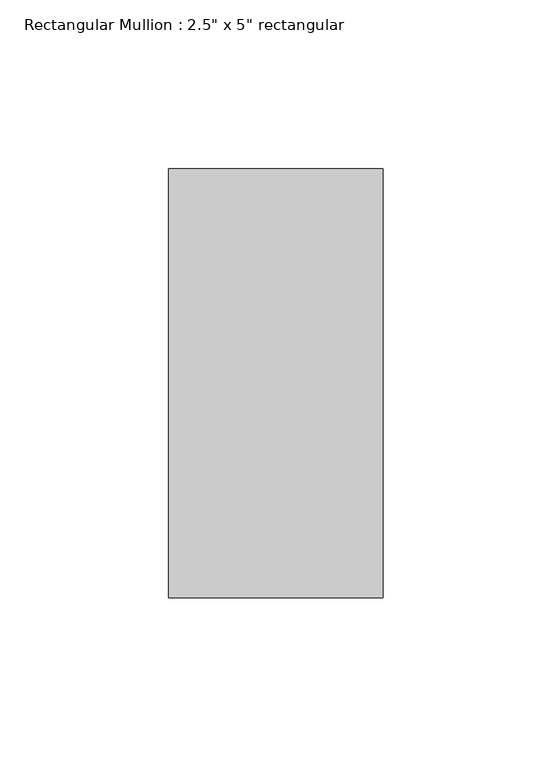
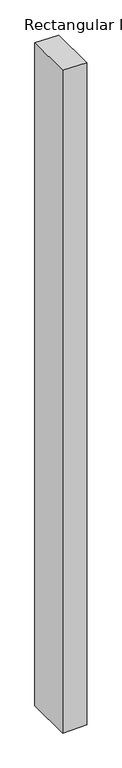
"""IFC4 building model written with IfcOpenShell, lengths in millimetres: member geometry."""

import ifcopenshell
import ifcopenshell.guid

model = None  # the IFC model being written
_history = None  # IfcOwnerHistory: only IFC2X3 demands one
_inside = {}  # id of a spatial element -> (the spatial element, [elements in it])
_under = {}  # id of a project, library or spatial element -> (it, [spatial elements below it])
_declared = {}  # id of a project -> (the project, [libraries it declares])
_typed = {}  # id of a type object -> (the type object, [elements of that type])
_made_of = {}  # id of a material, layer set ... -> (it, [elements and type objects made of it])


def new_model(schema):
    """Start an empty IFC model of exactly this schema.

    Asked for "IFC4X3", IfcOpenShell would pick the latest addendum, in which some entities
    have other attributes; the version numbers below select the first issue.
    IFC2X3 requires an IfcOwnerHistory on every rooted entity: one is made here for all.
    """
    global model, _history
    if schema == "IFC4X3":
        model = ifcopenshell.file(schema_version=(4, 3, 0, 0))
    else:
        model = ifcopenshell.file(schema=schema)
    _inside.clear()
    _under.clear()
    _declared.clear()
    _typed.clear()
    _made_of.clear()
    _history = None
    if model.schema == "IFC2X3":
        org = make("IfcOrganization", Name="unknown")
        user = make(
            "IfcPersonAndOrganization",
            ThePerson=make("IfcPerson", FamilyName="unknown"),
            TheOrganization=org,
        )
        app = make(
            "IfcApplication",
            ApplicationDeveloper=org,
            Version="unknown",
            ApplicationFullName="unknown",
            ApplicationIdentifier="unknown",
        )
        _history = make(
            "IfcOwnerHistory",
            OwningUser=user,
            OwningApplication=app,
            ChangeAction="ADDED",
            CreationDate=0,
        )
    return model


def make(cls, **values):
    """One entity of the class cls with the attributes given. An attribute that is None is left unset."""
    return model.create_entity(
        cls, **{name: value for name, value in values.items() if value is not None}
    )


def rooted(cls, **values):
    """An entity with a GlobalId (a new one), such as an element, a storey or a relation."""
    return make(cls, GlobalId=ifcopenshell.guid.new(), OwnerHistory=_history, **values)


def si_unit(unit_type, name, prefix=None):
    """IfcSIUnit, for example si_unit("LENGTHUNIT", "METRE", prefix="MILLI")."""
    return make("IfcSIUnit", UnitType=unit_type, Prefix=prefix, Name=name)


def assignment(units):
    """IfcUnitAssignment: the units of a project."""
    return None if units is None else make("IfcUnitAssignment", Units=units)


def point(xyz):
    """IfcCartesianPoint."""
    return None if xyz is None else make("IfcCartesianPoint", Coordinates=xyz)


def direction(xyz):
    """IfcDirection."""
    return None if xyz is None else make("IfcDirection", DirectionRatios=xyz)


def frame(location, z_axis=None, x_axis=None):
    """IfcAxis2Placement3D, a coordinate frame: its origin and axes. An axis left out is left unset."""
    return make(
        "IfcAxis2Placement3D",
        Location=point(location),
        Axis=direction(z_axis),
        RefDirection=direction(x_axis),
    )


def origin():
    """The frame at (0, 0, 0) with its axes left unset."""
    return frame((0.0, 0.0, 0.0))


def place(relative_to, where):
    """IfcLocalPlacement: puts the frame where relative to a parent placement (None: the world)."""
    return make(
        "IfcLocalPlacement", PlacementRelTo=relative_to, RelativePlacement=where
    )


def context(
    kind, dimensions, precision=None, world=None, true_north=None, identifier=None
):
    """IfcGeometricRepresentationContext, for example the 3D "Model" context."""
    return make(
        "IfcGeometricRepresentationContext",
        ContextIdentifier=identifier,
        ContextType=kind,
        CoordinateSpaceDimension=dimensions,
        Precision=precision,
        WorldCoordinateSystem=world,
        TrueNorth=true_north,
    )


def project(units=None, contexts=None):
    """IfcProject with its units and contexts."""
    return rooted(
        "IfcProject",
        Name="project",
        RepresentationContexts=contexts,
        UnitsInContext=assignment(units),
    )


def spatial(cls, under=None, at=None, **own):
    """A site, building, storey or space (cls), placed at a placement, below another one or the project."""
    s = rooted(cls, ObjectPlacement=at, **own)
    if under is not None:
        _under.setdefault(under.id(), (under, []))[1].append(s)
    return s


def polyline(points):
    """IfcPolyline through the points."""
    return make("IfcPolyline", Points=[point(p) for p in points])


def outline(outer, holes=None, kind="AREA"):
    """IfcArbitraryClosedProfileDef: a profile drawn as a closed curve; with holes, ...WithVoids."""
    if holes is None:
        return make("IfcArbitraryClosedProfileDef", ProfileType=kind, OuterCurve=outer)
    return make(
        "IfcArbitraryProfileDefWithVoids",
        ProfileType=kind,
        OuterCurve=outer,
        InnerCurves=holes,
    )


def extrude(swept, where, along, depth):
    """IfcExtrudedAreaSolid: the profile swept, set in the frame where, extruded along a direction by depth."""
    return make(
        "IfcExtrudedAreaSolid",
        SweptArea=swept,
        Position=where,
        ExtrudedDirection=direction(along),
        Depth=depth,
    )


def shape(context_of_items, identifier, shape_type, items):
    """IfcShapeRepresentation: the items that make up one representation, for example the "Body"."""
    return make(
        "IfcShapeRepresentation",
        ContextOfItems=context_of_items,
        RepresentationIdentifier=identifier,
        RepresentationType=shape_type,
        Items=items,
    )


def source(mapping_origin, context_of_items, identifier, shape_type, items):
    """IfcRepresentationMap: a shape defined once, which mapped items show again and again."""
    return make(
        "IfcRepresentationMap",
        MappingOrigin=mapping_origin,
        MappedRepresentation=shape(context_of_items, identifier, shape_type, items),
    )


def transform(
    local_origin,
    x_axis=None,
    y_axis=None,
    z_axis=None,
    scale=None,
    scale2=None,
    scale3=None,
    uniform=True,
):
    """IfcCartesianTransformationOperator3D, or its non-uniform kind. x_axis, y_axis, z_axis: its Axis1, 2, 3."""
    if uniform:
        return make(
            "IfcCartesianTransformationOperator3D",
            Axis1=direction(x_axis),
            Axis2=direction(y_axis),
            LocalOrigin=point(local_origin),
            Scale=scale,
            Axis3=direction(z_axis),
        )
    return make(
        "IfcCartesianTransformationOperator3DnonUniform",
        Axis1=direction(x_axis),
        Axis2=direction(y_axis),
        LocalOrigin=point(local_origin),
        Scale=scale,
        Axis3=direction(z_axis),
        Scale2=scale2,
        Scale3=scale3,
    )


def mapped(mapping_source, mapping_target):
    """IfcMappedItem: shows the shape of a source again, moved by a transform."""
    return make(
        "IfcMappedItem", MappingSource=mapping_source, MappingTarget=mapping_target
    )


def made_of(thing, what):
    """Note that an element or type object is made of a material, layer set ...; save() writes the relation."""
    if what is not None:
        _made_of.setdefault(what.id(), (what, []))[1].append(thing)
    return thing


def element(
    cls,
    number,
    at=None,
    inside=None,
    cuts=None,
    type_object=None,
    material=None,
    context=None,
    identifier="Body",
    shape_type=None,
    held_by="IfcProductDefinitionShape",
    body=None,
    shapes=None,
    **own,
):
    """One element of the class cls, such as IfcWall. Its Tag is "e" and its number.

    at: its placement. inside: the storey or other place that contains it. cuts: it is an
    opening in that element (IfcRelVoidsElement). A single representation is given by context,
    identifier, shape_type and body (its items); several are given by shapes. held_by: the class
    of the entity that holds the representations. save() writes the other relations.
    """
    e = rooted(cls, Tag="e%d" % number, ObjectPlacement=at, **own)
    if body is not None:
        shapes = [shape(context, identifier, shape_type, body)]
    if shapes is not None:
        e.Representation = make(held_by, Representations=shapes)
    if inside is not None:
        _inside.setdefault(inside.id(), (inside, []))[1].append(e)
    if cuts is not None:
        rooted(
            "IfcRelVoidsElement", RelatingBuildingElement=cuts, RelatedOpeningElement=e
        )
    if type_object is not None:
        _typed.setdefault(type_object.id(), (type_object, []))[1].append(e)
    return made_of(e, material)


def aggregate(whole, parts):
    """IfcRelAggregates: a whole, such as a stair, and the parts it consists of."""
    return rooted("IfcRelAggregates", RelatingObject=whole, RelatedObjects=parts)


def save(model, path):
    """Write the relations noted so far, then the file.

    IfcRelAggregates (storeys below a building ...), IfcRelContainedInSpatialStructure (elements
    in a storey), IfcRelDefinesByType, IfcRelAssociatesMaterial and IfcRelDeclares: one each for
    every whole, place, type object, material and project.
    """
    for whole, parts in _under.values():
        aggregate(whole, parts)
    for where, things in _inside.values():
        rooted(
            "IfcRelContainedInSpatialStructure",
            RelatedElements=things,
            RelatingStructure=where,
        )
    for kind, things in _typed.values():
        rooted("IfcRelDefinesByType", RelatedObjects=things, RelatingType=kind)
    for what, things in _made_of.values():
        rooted("IfcRelAssociatesMaterial", RelatedObjects=things, RelatingMaterial=what)
    for by, libraries in _declared.values():
        rooted("IfcRelDeclares", RelatingContext=by, RelatedDefinitions=libraries)
    model.write(path)


def member_bbbeaff8(model_context):
    return source(origin(), model_context, "Body", "SweptSolid", [
        extrude(outline(polyline([(0.0, 0.0), (0.6365161, -63.5), (-1851.5593361, -63.5), (-1850.4430062, 0.0), (0.0, 0.0)])), frame((0.0, -63.5, 0.0), z_axis=(0.0, 1.0, 0.0), x_axis=(0.0, 0.0, 1.0)), (0.0, 0.0, 1.0), 127.0),
    ])


if __name__ == "__main__":
    model = new_model("IFC4")
    model_context = context("Model", 3, world=origin())
    ifc_project = project(units=[si_unit("LENGTHUNIT", "METRE", prefix="MILLI")], contexts=[model_context])
    site = spatial("IfcSite", under=ifc_project)
    building = spatial("IfcBuilding", under=site)
    placement = place(None, origin())
    member_shape = member_bbbeaff8(model_context)
    element("IfcMember", 1, ObjectType="Rectangular Mullion : 2.5\" x 5\" rectangular", at=placement, inside=building, context=model_context, shape_type="MappedRepresentation", body=[
        mapped(member_shape, transform((0.0, 0.0, 0.0), x_axis=(1.0, 0.0, 0.0), y_axis=(0.0, 1.0, 0.0), z_axis=(0.0, 0.0, 1.0))),
    ])
    save(model, "model.ifc")
